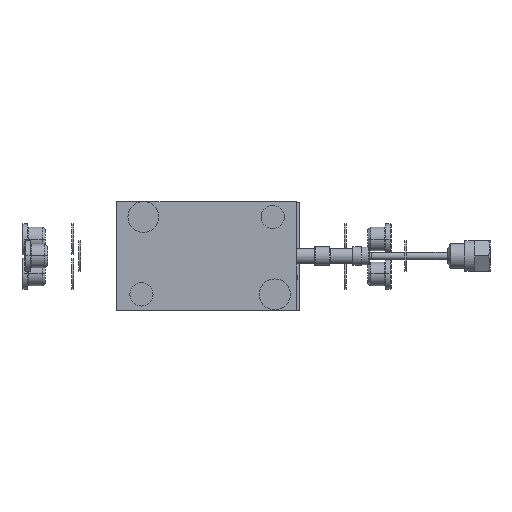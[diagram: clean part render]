
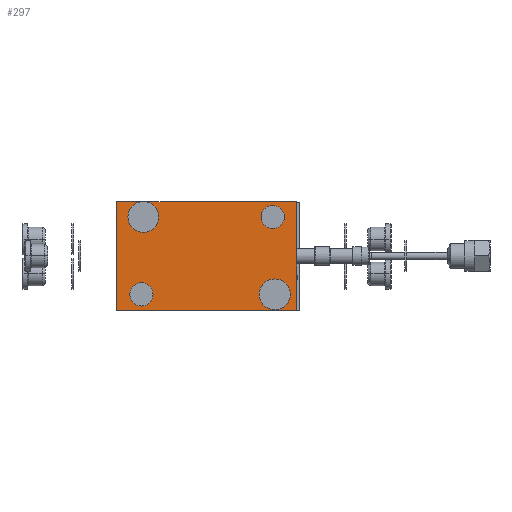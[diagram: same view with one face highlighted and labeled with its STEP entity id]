
A CAD part, top view. The second image highlights one B-rep face of the part: STEP entity #297.
In plain terms, the highlighted planar face has unit normal (0, 0, 1).
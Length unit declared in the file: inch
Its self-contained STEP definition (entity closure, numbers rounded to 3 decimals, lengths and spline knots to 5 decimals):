
#182=DIRECTION('',(1.,0.,0.));
#183=VECTOR('',#182,2.904);
#184=CARTESIAN_POINT('',(-2.94337,0.,0.542));
#185=LINE('',#184,#183);
#186=DIRECTION('',(0.,-1.,0.));
#187=VECTOR('',#186,1.75);
#188=CARTESIAN_POINT('',(-2.94337,1.75,0.542));
#189=LINE('',#188,#187);
#190=DIRECTION('',(-1.,0.,0.));
#191=VECTOR('',#190,2.904);
#192=CARTESIAN_POINT('',(-0.03937,1.75,0.542));
#193=LINE('',#192,#191);
#194=DIRECTION('',(0.,1.,0.));
#195=VECTOR('',#194,1.75);
#196=CARTESIAN_POINT('',(-0.03937,0.,0.542));
#197=LINE('',#196,#195);
#206=CARTESIAN_POINT('',(-2.94337,0.,0.542));
#207=CARTESIAN_POINT('',(-0.03937,0.,0.542));
#208=VERTEX_POINT('',#206);
#209=VERTEX_POINT('',#207);
#210=CARTESIAN_POINT('',(-0.03937,1.75,0.542));
#211=VERTEX_POINT('',#210);
#212=CARTESIAN_POINT('',(-2.94337,1.75,0.542));
#213=VERTEX_POINT('',#212);
#286=CARTESIAN_POINT('',(-2.94337,0.,0.542));
#287=DIRECTION('',(0.,0.,1.));
#288=DIRECTION('',(1.,0.,0.));
#289=AXIS2_PLACEMENT_3D('',#286,#287,#288);
#290=PLANE('',#289);
#291=ORIENTED_EDGE('',*,*,#238,.F.);
#292=ORIENTED_EDGE('',*,*,#253,.F.);
#293=ORIENTED_EDGE('',*,*,#267,.F.);
#294=ORIENTED_EDGE('',*,*,#280,.F.);
#295=EDGE_LOOP('',(#291,#292,#293,#294));
#296=FACE_OUTER_BOUND('',#295,.F.);
#297=ADVANCED_FACE('',(#296),#290,.T.);
#238=EDGE_CURVE('',#208,#209,#185,.T.);
#253=EDGE_CURVE('',#213,#208,#189,.T.);
#267=EDGE_CURVE('',#211,#213,#193,.T.);
#280=EDGE_CURVE('',#209,#211,#197,.T.);
